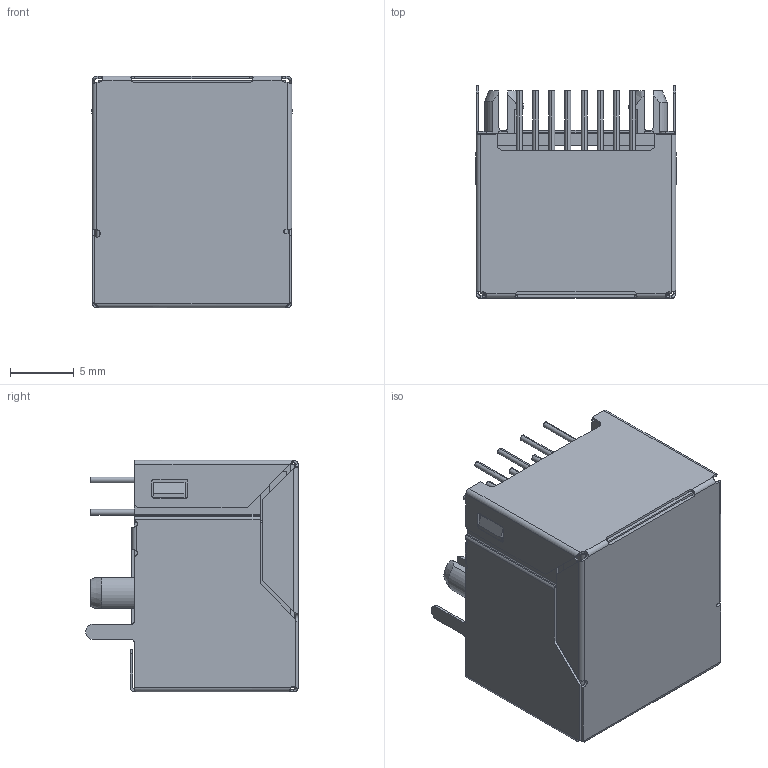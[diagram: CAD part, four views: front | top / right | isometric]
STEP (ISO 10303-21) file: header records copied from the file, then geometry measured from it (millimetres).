
FILE_DESCRIPTION (( 'STEP AP203' ), '1' );
FILE_NAME ('M-RJD7D-188-2100-REVT1.STEP', '2022-07-27T03:12:31', ( '' ), ( '' ), 'SwSTEP 2.0', 'SolidWorks 2021', '' );
FILE_SCHEMA (( 'CONFIG_CONTROL_DESIGN' ));
Length unit declared in the file: millimetre
Products named in the file (1): M-RJD7D-188-2100-REVT1
Bounding box: 15.76 x 16.7 x 18.2 mm (x, y, z)
Volume: 2187.2 mm3; surface area: 5012 mm2
Topology: 3 solids, 3 shells, 650 faces, 1802 edges, 1144 vertices
Faces by surface type: plane 419, cylinder 182, bspline 44, cone 5
Entity records: 21956 total; most frequent: CARTESIAN_POINT 5540, ORIENTED_EDGE 3572, DIRECTION 3182, EDGE_CURVE 1786, LINE 1318, VECTOR 1318, VERTEX_POINT 1144, AXIS2_PLACEMENT_3D 932
